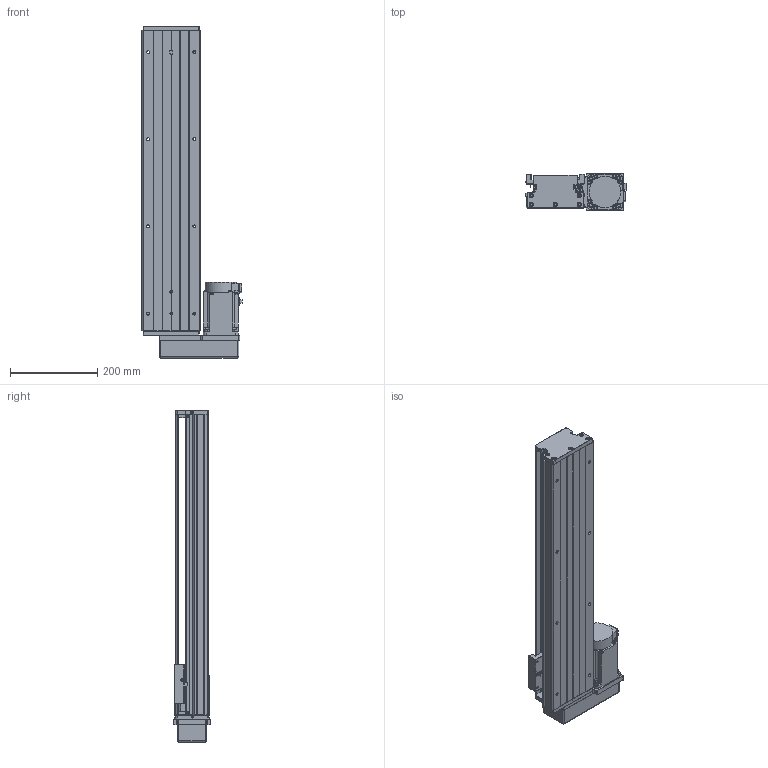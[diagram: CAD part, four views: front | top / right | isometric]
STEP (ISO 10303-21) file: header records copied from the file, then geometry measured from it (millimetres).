
FILE_DESCRIPTION (( 'STEP AP203' ), '1' );
FILE_NAME ('KTH130-550-BR-M75-C4.step', '2023-06-30T04:56:01', ( '微软用户' ), ( '微软中国' ), 'SwSTEP 2.0', 'SolidWorks 2020', '' );
FILE_SCHEMA (( 'CONFIG_CONTROL_DESIGN' ));
Length unit declared in the file: millimetre
Products named in the file (18): GBT 70.2-M3¡Á5_M3¡Á6; GBT 70.3-M3℅8; GTH14-001_550; CTHA60-017; hg-kn73j_-s100; KTH130-002_KTH130-002; EE_SX911P_R; CTHA86-015-3_CTHA86-015-4; KTH130-004; CTHA60-016; CTHA86-035; KTH130-005; GBT 70.1-M3℅5; KTH130-550-BR-M75-C4; GB1155-6X6; GBT77-2000 M3×3; GBT70.1 M5℅16; す晦芛蹟隊 M3℅5
Assembly tree (49 placements, depth 2):
  KTH130-550-BR-M75-C4
    GTH14-001_550
    KTH130-002_KTH130-002
    KTH130-004
    KTH130-005
    GB1155-6X6  x2
    GBT70.1 M5℅16  x10
    GBT 70.2-M3¡Á5_M3¡Á6  x4
    CTHA60-017  x3
    EE_SX911P_R  x3
    CTHA60-016  x2
    GBT 70.1-M3℅5  x6
    GBT77-2000 M3×3  x6
    す晦芛蹟隊 M3℅5  x2
    GBT 70.3-M3℅8  x4
    hg-kn73j_-s100
    CTHA86-015-3_CTHA86-015-4
    CTHA86-035
Bounding box: 230.3 x 87 x 762 mm (x, y, z)
Volume: 5210668.3 mm3; surface area: 750950.3 mm2
Topology: 52 solids, 52 shells, 2182 faces, 5292 edges, 3311 vertices
Faces by surface type: plane 1206, cylinder 622, cone 238, torus 100, sphere 16
Entity records: 39637 total; most frequent: CARTESIAN_POINT 6672, DIRECTION 6517, ORIENTED_EDGE 6088, EDGE_CURVE 3044, AXIS2_PLACEMENT_3D 2274, LINE 1969, VECTOR 1969, VERTEX_POINT 1945
